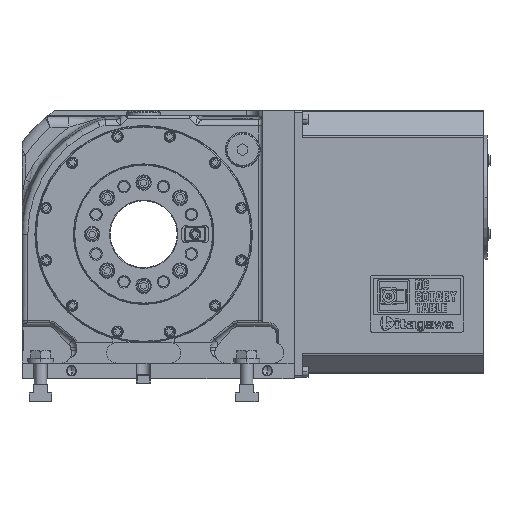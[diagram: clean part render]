
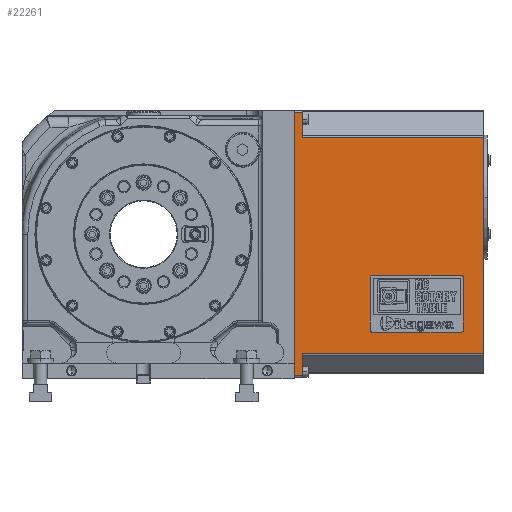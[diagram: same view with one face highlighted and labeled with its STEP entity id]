
A CAD part, top view. The second image highlights one B-rep face of the part: STEP entity #22261.
In plain terms, the highlighted planar face has unit normal (0, 0, 1).
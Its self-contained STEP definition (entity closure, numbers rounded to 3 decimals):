
#2102 = CARTESIAN_POINT ( 'NONE',  ( 184., 22.828, 0. ) ) ;
#3875 = VERTEX_POINT ( 'NONE', #96041 ) ;
#8222 = CARTESIAN_POINT ( 'NONE',  ( 0., 257., 0. ) ) ;
#8929 = CARTESIAN_POINT ( 'NONE',  ( 8., 0., 0. ) ) ;
#9088 = VERTEX_POINT ( 'NONE', #8222 ) ;
#10056 = DIRECTION ( 'NONE',  ( 1., 0., 0. ) ) ;
#12159 = LINE ( 'NONE', #24377, #57620 ) ;
#14170 = ORIENTED_EDGE ( 'NONE', *, *, #32757, .T. ) ;
#18059 = PLANE ( 'NONE',  #49640 ) ;
#19918 = EDGE_CURVE ( 'NONE', #42888, #67307, #60933, .T. ) ;
#20396 = LINE ( 'NONE', #30418, #116999 ) ;
#22261 = ADVANCED_FACE ( 'NONE', ( #60164 ), #18059, .F. ) ;
#22690 = VERTEX_POINT ( 'NONE', #115218 ) ;
#24377 = CARTESIAN_POINT ( 'NONE',  ( 8., 257., 0. ) ) ;
#24411 = ORIENTED_EDGE ( 'NONE', *, *, #32108, .F. ) ;
#24473 = CARTESIAN_POINT ( 'NONE',  ( 184., 233.172, 0. ) ) ;
#27206 = EDGE_CURVE ( 'NONE', #92575, #3875, #90077, .T. ) ;
#27441 = CARTESIAN_POINT ( 'NONE',  ( 8., 22.828, 0. ) ) ;
#30418 = CARTESIAN_POINT ( 'NONE',  ( 8., 233.172, 0. ) ) ;
#30811 = DIRECTION ( 'NONE',  ( -1., 0., 0. ) ) ;
#32108 = EDGE_CURVE ( 'NONE', #22690, #39790, #52566, .T. ) ;
#32757 = EDGE_CURVE ( 'NONE', #9088, #92575, #80809, .T. ) ;
#37455 = CARTESIAN_POINT ( 'NONE',  ( 8., 0., 0. ) ) ;
#37814 = CARTESIAN_POINT ( 'NONE',  ( 0., 0., 0. ) ) ;
#38174 = VECTOR ( 'NONE', #92205, 1000. ) ;
#39557 = CARTESIAN_POINT ( 'NONE',  ( 8., 0., 0. ) ) ;
#39790 = VERTEX_POINT ( 'NONE', #72671 ) ;
#42664 = CARTESIAN_POINT ( 'NONE',  ( 184., 234., 0. ) ) ;
#42888 = VERTEX_POINT ( 'NONE', #24473 ) ;
#45268 = EDGE_CURVE ( 'NONE', #22690, #9088, #12159, .T. ) ;
#49640 = AXIS2_PLACEMENT_3D ( 'NONE', #8929, #99457, #81567 ) ;
#50448 = EDGE_CURVE ( 'NONE', #110759, #3875, #109462, .T. ) ;
#51743 = DIRECTION ( 'NONE',  ( 0., -1., 0. ) ) ;
#52566 = LINE ( 'NONE', #37455, #73949 ) ;
#57620 = VECTOR ( 'NONE', #106173, 1000. ) ;
#60164 = FACE_OUTER_BOUND ( 'NONE', #92192, .T. ) ;
#60933 = LINE ( 'NONE', #42664, #106382 ) ;
#67307 = VERTEX_POINT ( 'NONE', #2102 ) ;
#70024 = DIRECTION ( 'NONE',  ( 1., 0., 0. ) ) ;
#72671 = CARTESIAN_POINT ( 'NONE',  ( 8., 233.172, 0. ) ) ;
#73562 = CARTESIAN_POINT ( 'NONE',  ( 8., 22.828, 0. ) ) ;
#73949 = VECTOR ( 'NONE', #110137, 1000. ) ;
#75385 = ORIENTED_EDGE ( 'NONE', *, *, #45268, .T. ) ;
#80809 = LINE ( 'NONE', #37814, #38174 ) ;
#81563 = VECTOR ( 'NONE', #70024, 1000. ) ;
#81567 = DIRECTION ( 'NONE',  ( 0., 1., 0. ) ) ;
#81595 = VECTOR ( 'NONE', #10056, 1000. ) ;
#82357 = CARTESIAN_POINT ( 'NONE',  ( 0., 2., 0. ) ) ;
#82416 = VECTOR ( 'NONE', #112226, 1000. ) ;
#84957 = ORIENTED_EDGE ( 'NONE', *, *, #27206, .T. ) ;
#90077 = LINE ( 'NONE', #97010, #81563 ) ;
#92192 = EDGE_LOOP ( 'NONE', ( #110447, #114196, #102775, #106085, #24411, #75385, #14170, #84957 ) ) ;
#92205 = DIRECTION ( 'NONE',  ( 0., -1., 0. ) ) ;
#92575 = VERTEX_POINT ( 'NONE', #82357 ) ;
#96041 = CARTESIAN_POINT ( 'NONE',  ( 8., 2., 0. ) ) ;
#97010 = CARTESIAN_POINT ( 'NONE',  ( 8., 2., 0. ) ) ;
#99457 = DIRECTION ( 'NONE',  ( 0., 0., -1. ) ) ;
#102775 = ORIENTED_EDGE ( 'NONE', *, *, #19918, .F. ) ;
#102927 = LINE ( 'NONE', #73562, #81595 ) ;
#104096 = EDGE_CURVE ( 'NONE', #42888, #39790, #20396, .T. ) ;
#106085 = ORIENTED_EDGE ( 'NONE', *, *, #104096, .T. ) ;
#106173 = DIRECTION ( 'NONE',  ( -1., 0., 0. ) ) ;
#106382 = VECTOR ( 'NONE', #51743, 1000. ) ;
#109462 = LINE ( 'NONE', #39557, #82416 ) ;
#110137 = DIRECTION ( 'NONE',  ( 0., -1., 0. ) ) ;
#110447 = ORIENTED_EDGE ( 'NONE', *, *, #50448, .F. ) ;
#110759 = VERTEX_POINT ( 'NONE', #27441 ) ;
#112226 = DIRECTION ( 'NONE',  ( 0., -1., 0. ) ) ;
#114196 = ORIENTED_EDGE ( 'NONE', *, *, #114953, .T. ) ;
#114953 = EDGE_CURVE ( 'NONE', #110759, #67307, #102927, .T. ) ;
#115218 = CARTESIAN_POINT ( 'NONE',  ( 8., 257., 0. ) ) ;
#116999 = VECTOR ( 'NONE', #30811, 1000. ) ;
